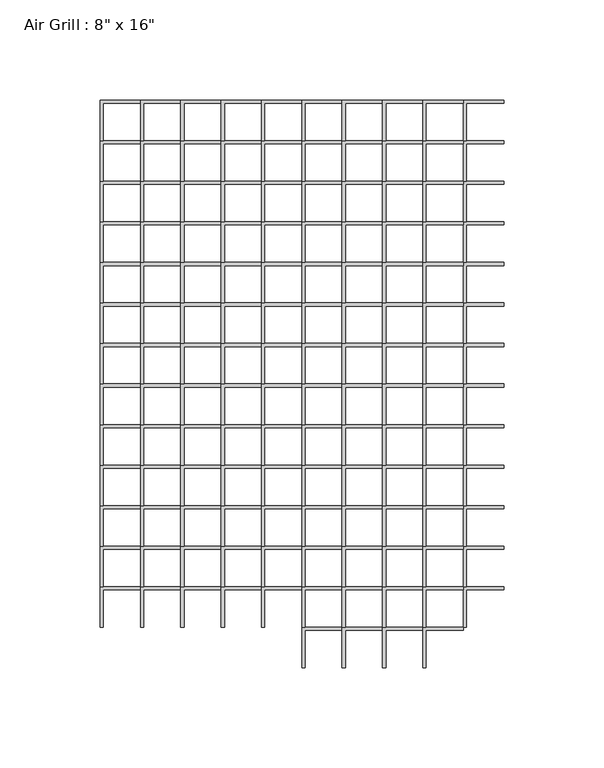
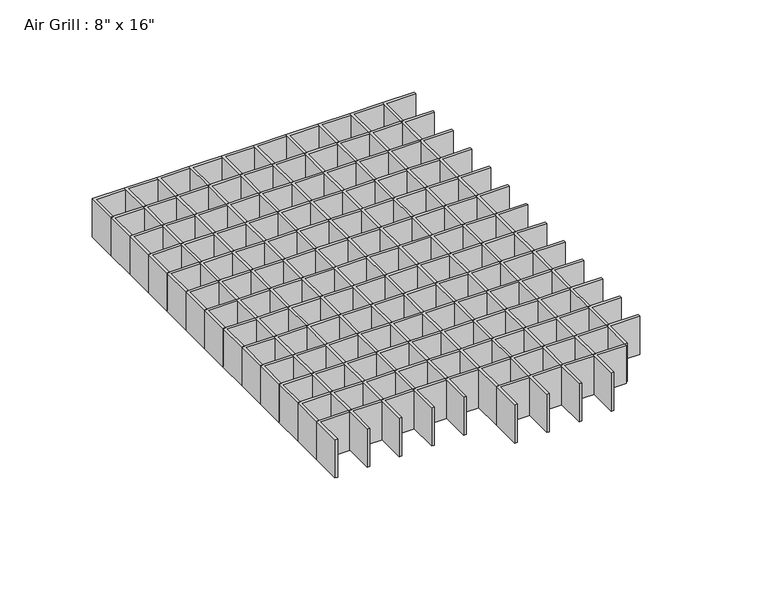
"""IFC4 building model written with IfcOpenShell, lengths in millimetres: proxy geometry."""

from ifc_helpers import new_model, si_unit, frame, origin, place, context, project, spatial, polyline, outline, extrude, source, transform, mapped, element, save


def proxy_573f99ae(model_context):
    return source(origin(), model_context, "Body", "SweptSolid", [
        extrude(outline(polyline([(59.69, 182.959375), (79.85125, 182.959375), (79.85125, 181.371875), (61.2775, 181.371875), (61.2775, 162.71875), (59.69, 162.71875), (59.69, 182.959375)])), frame((0.0, 0.0, 2438.4), z_axis=(0.0, 0.0, 1.0), x_axis=(1.0, 0.0, 0.0)), (0.0, 0.0, 1.0), 25.4),
        extrude(outline(polyline([(39.52875, 182.959375), (59.69, 182.959375), (59.69, 181.371875), (41.11625, 181.371875), (41.11625, 162.71875), (39.52875, 162.71875), (39.52875, 182.959375)])), frame((0.0, 0.0, 2438.4), z_axis=(0.0, 0.0, 1.0), x_axis=(1.0, 0.0, 0.0)), (0.0, 0.0, 1.0), 25.4),
        extrude(outline(polyline([(19.3675, 182.959375), (39.52875, 182.959375), (39.52875, 181.371875), (20.955, 181.371875), (20.955, 162.71875), (19.3675, 162.71875), (19.3675, 182.959375)])), frame((0.0, 0.0, 2438.4), z_axis=(0.0, 0.0, 1.0), x_axis=(1.0, 0.0, 0.0)), (0.0, 0.0, 1.0), 25.4),
        extrude(outline(polyline([(-0.79375, 182.959375), (19.3675, 182.959375), (19.3675, 181.371875), (0.79375, 181.371875), (0.79375, 162.71875), (-0.79375, 162.71875), (-0.79375, 182.959375)])), frame((0.0, 0.0, 2438.4), z_axis=(0.0, 0.0, 1.0), x_axis=(1.0, 0.0, 0.0)), (0.0, 0.0, 1.0), 25.4),
        extrude(outline(polyline([(-20.955, 182.959375), (-0.79375, 182.959375), (-0.79375, 181.371875), (-19.3675, 181.371875), (-19.3675, 162.71875), (-20.955, 162.71875), (-20.955, 182.959375)])), frame((0.0, 0.0, 2438.4), z_axis=(0.0, 0.0, 1.0), x_axis=(1.0, 0.0, 0.0)), (0.0, 0.0, 1.0), 25.4),
        extrude(outline(polyline([(-41.11625, 182.959375), (-20.955, 182.959375), (-20.955, 181.371875), (-39.52875, 181.371875), (-39.52875, 162.71875), (-41.11625, 162.71875), (-41.11625, 182.959375)])), frame((0.0, 0.0, 2438.4), z_axis=(0.0, 0.0, 1.0), x_axis=(1.0, 0.0, 0.0)), (0.0, 0.0, 1.0), 25.4),
        extrude(outline(polyline([(-61.2775, 182.959375), (-41.11625, 182.959375), (-41.11625, 181.371875), (-59.69, 181.371875), (-59.69, 162.71875), (-61.2775, 162.71875), (-61.2775, 182.959375)])), frame((0.0, 0.0, 2438.4), z_axis=(0.0, 0.0, 1.0), x_axis=(1.0, 0.0, 0.0)), (0.0, 0.0, 1.0), 25.4),
        extrude(outline(polyline([(-81.43875, 182.959375), (-61.2775, 182.959375), (-61.2775, 181.371875), (-79.85125, 181.371875), (-79.85125, 162.71875), (-81.43875, 162.71875), (-81.43875, 182.959375)])), frame((0.0, 0.0, 2438.4), z_axis=(0.0, 0.0, 1.0), x_axis=(1.0, 0.0, 0.0)), (0.0, 0.0, 1.0), 25.4),
        extrude(outline(polyline([(79.85125, 182.959375), (100.0125, 182.959375), (100.0125, 181.371875), (81.43875, 181.371875), (81.43875, 162.71875), (79.85125, 162.71875), (79.85125, 182.959375)])), frame((0.0, 0.0, 2438.4), z_axis=(0.0, 0.0, 1.0), x_axis=(1.0, 0.0, 0.0)), (0.0, 0.0, 1.0), 25.4),
        extrude(outline(polyline([(-101.6, 182.959375), (-81.43875, 182.959375), (-81.43875, 181.371875), (-100.0125, 181.371875), (-100.0125, 162.71875), (-101.6, 162.71875), (-101.6, 182.959375)])), frame((0.0, 0.0, 2438.4), z_axis=(0.0, 0.0, 1.0), x_axis=(1.0, 0.0, 0.0)), (0.0, 0.0, 1.0), 25.4),
        extrude(outline(polyline([(59.69, 162.71875), (79.85125, 162.71875), (79.85125, 161.13125), (61.2775, 161.13125), (61.2775, 142.478125), (59.69, 142.478125), (59.69, 162.71875)])), frame((0.0, 0.0, 2438.4), z_axis=(0.0, 0.0, 1.0), x_axis=(1.0, 0.0, 0.0)), (0.0, 0.0, 1.0), 25.4),
        extrude(outline(polyline([(39.52875, 162.71875), (59.69, 162.71875), (59.69, 161.13125), (41.11625, 161.13125), (41.11625, 142.478125), (39.52875, 142.478125), (39.52875, 162.71875)])), frame((0.0, 0.0, 2438.4), z_axis=(0.0, 0.0, 1.0), x_axis=(1.0, 0.0, 0.0)), (0.0, 0.0, 1.0), 25.4),
        extrude(outline(polyline([(19.3675, 162.71875), (39.52875, 162.71875), (39.52875, 161.13125), (20.955, 161.13125), (20.955, 142.478125), (19.3675, 142.478125), (19.3675, 162.71875)])), frame((0.0, 0.0, 2438.4), z_axis=(0.0, 0.0, 1.0), x_axis=(1.0, 0.0, 0.0)), (0.0, 0.0, 1.0), 25.4),
        extrude(outline(polyline([(-0.79375, 162.71875), (19.3675, 162.71875), (19.3675, 161.13125), (0.79375, 161.13125), (0.79375, 142.478125), (-0.79375, 142.478125), (-0.79375, 162.71875)])), frame((0.0, 0.0, 2438.4), z_axis=(0.0, 0.0, 1.0), x_axis=(1.0, 0.0, 0.0)), (0.0, 0.0, 1.0), 25.4),
        extrude(outline(polyline([(-20.955, 162.71875), (-0.79375, 162.71875), (-0.79375, 161.13125), (-19.3675, 161.13125), (-19.3675, 142.478125), (-20.955, 142.478125), (-20.955, 162.71875)])), frame((0.0, 0.0, 2438.4), z_axis=(0.0, 0.0, 1.0), x_axis=(1.0, 0.0, 0.0)), (0.0, 0.0, 1.0), 25.4),
        extrude(outline(polyline([(-41.11625, 162.71875), (-20.955, 162.71875), (-20.955, 161.13125), (-39.52875, 161.13125), (-39.52875, 142.478125), (-41.11625, 142.478125), (-41.11625, 162.71875)])), frame((0.0, 0.0, 2438.4), z_axis=(0.0, 0.0, 1.0), x_axis=(1.0, 0.0, 0.0)), (0.0, 0.0, 1.0), 25.4),
        extrude(outline(polyline([(-61.2775, 162.71875), (-41.11625, 162.71875), (-41.11625, 161.13125), (-59.69, 161.13125), (-59.69, 142.478125), (-61.2775, 142.478125), (-61.2775, 162.71875)])), frame((0.0, 0.0, 2438.4), z_axis=(0.0, 0.0, 1.0), x_axis=(1.0, 0.0, 0.0)), (0.0, 0.0, 1.0), 25.4),
        extrude(outline(polyline([(-81.43875, 162.71875), (-61.2775, 162.71875), (-61.2775, 161.13125), (-79.85125, 161.13125), (-79.85125, 142.478125), (-81.43875, 142.478125), (-81.43875, 162.71875)])), frame((0.0, 0.0, 2438.4), z_axis=(0.0, 0.0, 1.0), x_axis=(1.0, 0.0, 0.0)), (0.0, 0.0, 1.0), 25.4),
        extrude(outline(polyline([(79.85125, 162.71875), (100.0125, 162.71875), (100.0125, 161.13125), (81.43875, 161.13125), (81.43875, 142.478125), (79.85125, 142.478125), (79.85125, 162.71875)])), frame((0.0, 0.0, 2438.4), z_axis=(0.0, 0.0, 1.0), x_axis=(1.0, 0.0, 0.0)), (0.0, 0.0, 1.0), 25.4),
        extrude(outline(polyline([(-101.6, 162.71875), (-81.43875, 162.71875), (-81.43875, 161.13125), (-100.0125, 161.13125), (-100.0125, 142.478125), (-101.6, 142.478125), (-101.6, 162.71875)])), frame((0.0, 0.0, 2438.4), z_axis=(0.0, 0.0, 1.0), x_axis=(1.0, 0.0, 0.0)), (0.0, 0.0, 1.0), 25.4),
        extrude(outline(polyline([(59.69, 142.478125), (79.85125, 142.478125), (79.85125, 140.890625), (61.2775, 140.890625), (61.2775, 122.2375), (59.69, 122.2375), (59.69, 142.478125)])), frame((0.0, 0.0, 2438.4), z_axis=(0.0, 0.0, 1.0), x_axis=(1.0, 0.0, 0.0)), (0.0, 0.0, 1.0), 25.4),
        extrude(outline(polyline([(39.52875, 142.478125), (59.69, 142.478125), (59.69, 140.890625), (41.11625, 140.890625), (41.11625, 122.2375), (39.52875, 122.2375), (39.52875, 142.478125)])), frame((0.0, 0.0, 2438.4), z_axis=(0.0, 0.0, 1.0), x_axis=(1.0, 0.0, 0.0)), (0.0, 0.0, 1.0), 25.4),
        extrude(outline(polyline([(19.3675, 142.478125), (39.52875, 142.478125), (39.52875, 140.890625), (20.955, 140.890625), (20.955, 122.2375), (19.3675, 122.2375), (19.3675, 142.478125)])), frame((0.0, 0.0, 2438.4), z_axis=(0.0, 0.0, 1.0), x_axis=(1.0, 0.0, 0.0)), (0.0, 0.0, 1.0), 25.4),
        extrude(outline(polyline([(-0.79375, 142.478125), (19.3675, 142.478125), (19.3675, 140.890625), (0.79375, 140.890625), (0.79375, 122.2375), (-0.79375, 122.2375), (-0.79375, 142.478125)])), frame((0.0, 0.0, 2438.4), z_axis=(0.0, 0.0, 1.0), x_axis=(1.0, 0.0, 0.0)), (0.0, 0.0, 1.0), 25.4),
        extrude(outline(polyline([(-20.955, 142.478125), (-0.79375, 142.478125), (-0.79375, 140.890625), (-19.3675, 140.890625), (-19.3675, 122.2375), (-20.955, 122.2375), (-20.955, 142.478125)])), frame((0.0, 0.0, 2438.4), z_axis=(0.0, 0.0, 1.0), x_axis=(1.0, 0.0, 0.0)), (0.0, 0.0, 1.0), 25.4),
        extrude(outline(polyline([(-41.11625, 142.478125), (-20.955, 142.478125), (-20.955, 140.890625), (-39.52875, 140.890625), (-39.52875, 122.2375), (-41.11625, 122.2375), (-41.11625, 142.478125)])), frame((0.0, 0.0, 2438.4), z_axis=(0.0, 0.0, 1.0), x_axis=(1.0, 0.0, 0.0)), (0.0, 0.0, 1.0), 25.4),
        extrude(outline(polyline([(-61.2775, 142.478125), (-41.11625, 142.478125), (-41.11625, 140.890625), (-59.69, 140.890625), (-59.69, 122.2375), (-61.2775, 122.2375), (-61.2775, 142.478125)])), frame((0.0, 0.0, 2438.4), z_axis=(0.0, 0.0, 1.0), x_axis=(1.0, 0.0, 0.0)), (0.0, 0.0, 1.0), 25.4),
        extrude(outline(polyline([(-81.43875, 142.478125), (-61.2775, 142.478125), (-61.2775, 140.890625), (-79.85125, 140.890625), (-79.85125, 122.2375), (-81.43875, 122.2375), (-81.43875, 142.478125)])), frame((0.0, 0.0, 2438.4), z_axis=(0.0, 0.0, 1.0), x_axis=(1.0, 0.0, 0.0)), (0.0, 0.0, 1.0), 25.4),
        extrude(outline(polyline([(79.85125, 142.478125), (100.0125, 142.478125), (100.0125, 140.890625), (81.43875, 140.890625), (81.43875, 122.2375), (79.85125, 122.2375), (79.85125, 142.478125)])), frame((0.0, 0.0, 2438.4), z_axis=(0.0, 0.0, 1.0), x_axis=(1.0, 0.0, 0.0)), (0.0, 0.0, 1.0), 25.4),
        extrude(outline(polyline([(-101.6, 142.478125), (-81.43875, 142.478125), (-81.43875, 140.890625), (-100.0125, 140.890625), (-100.0125, 122.2375), (-101.6, 122.2375), (-101.6, 142.478125)])), frame((0.0, 0.0, 2438.4), z_axis=(0.0, 0.0, 1.0), x_axis=(1.0, 0.0, 0.0)), (0.0, 0.0, 1.0), 25.4),
        extrude(outline(polyline([(59.69, 122.2375), (79.85125, 122.2375), (79.85125, 120.65), (61.2775, 120.65), (61.2775, 101.996875), (59.69, 101.996875), (59.69, 122.2375)])), frame((0.0, 0.0, 2438.4), z_axis=(0.0, 0.0, 1.0), x_axis=(1.0, 0.0, 0.0)), (0.0, 0.0, 1.0), 25.4),
        extrude(outline(polyline([(39.52875, 122.2375), (59.69, 122.2375), (59.69, 120.65), (41.11625, 120.65), (41.11625, 101.996875), (39.52875, 101.996875), (39.52875, 122.2375)])), frame((0.0, 0.0, 2438.4), z_axis=(0.0, 0.0, 1.0), x_axis=(1.0, 0.0, 0.0)), (0.0, 0.0, 1.0), 25.4),
        extrude(outline(polyline([(19.3675, 122.2375), (39.52875, 122.2375), (39.52875, 120.65), (20.955, 120.65), (20.955, 101.996875), (19.3675, 101.996875), (19.3675, 122.2375)])), frame((0.0, 0.0, 2438.4), z_axis=(0.0, 0.0, 1.0), x_axis=(1.0, 0.0, 0.0)), (0.0, 0.0, 1.0), 25.4),
        extrude(outline(polyline([(-0.79375, 122.2375), (19.3675, 122.2375), (19.3675, 120.65), (0.79375, 120.65), (0.79375, 101.996875), (-0.79375, 101.996875), (-0.79375, 122.2375)])), frame((0.0, 0.0, 2438.4), z_axis=(0.0, 0.0, 1.0), x_axis=(1.0, 0.0, 0.0)), (0.0, 0.0, 1.0), 25.4),
        extrude(outline(polyline([(-20.955, 122.2375), (-0.79375, 122.2375), (-0.79375, 120.65), (-19.3675, 120.65), (-19.3675, 101.996875), (-20.955, 101.996875), (-20.955, 122.2375)])), frame((0.0, 0.0, 2438.4), z_axis=(0.0, 0.0, 1.0), x_axis=(1.0, 0.0, 0.0)), (0.0, 0.0, 1.0), 25.4),
        extrude(outline(polyline([(-41.11625, 122.2375), (-20.955, 122.2375), (-20.955, 120.65), (-39.52875, 120.65), (-39.52875, 101.996875), (-41.11625, 101.996875), (-41.11625, 122.2375)])), frame((0.0, 0.0, 2438.4), z_axis=(0.0, 0.0, 1.0), x_axis=(1.0, 0.0, 0.0)), (0.0, 0.0, 1.0), 25.4),
        extrude(outline(polyline([(-61.2775, 122.2375), (-41.11625, 122.2375), (-41.11625, 120.65), (-59.69, 120.65), (-59.69, 101.996875), (-61.2775, 101.996875), (-61.2775, 122.2375)])), frame((0.0, 0.0, 2438.4), z_axis=(0.0, 0.0, 1.0), x_axis=(1.0, 0.0, 0.0)), (0.0, 0.0, 1.0), 25.4),
        extrude(outline(polyline([(-81.43875, 122.2375), (-61.2775, 122.2375), (-61.2775, 120.65), (-79.85125, 120.65), (-79.85125, 101.996875), (-81.43875, 101.996875), (-81.43875, 122.2375)])), frame((0.0, 0.0, 2438.4), z_axis=(0.0, 0.0, 1.0), x_axis=(1.0, 0.0, 0.0)), (0.0, 0.0, 1.0), 25.4),
        extrude(outline(polyline([(79.85125, 122.2375), (100.0125, 122.2375), (100.0125, 120.65), (81.43875, 120.65), (81.43875, 101.996875), (79.85125, 101.996875), (79.85125, 122.2375)])), frame((0.0, 0.0, 2438.4), z_axis=(0.0, 0.0, 1.0), x_axis=(1.0, 0.0, 0.0)), (0.0, 0.0, 1.0), 25.4),
        extrude(outline(polyline([(-101.6, 122.2375), (-81.43875, 122.2375), (-81.43875, 120.65), (-100.0125, 120.65), (-100.0125, 101.996875), (-101.6, 101.996875), (-101.6, 122.2375)])), frame((0.0, 0.0, 2438.4), z_axis=(0.0, 0.0, 1.0), x_axis=(1.0, 0.0, 0.0)), (0.0, 0.0, 1.0), 25.4),
        extrude(outline(polyline([(59.69, 101.996875), (79.85125, 101.996875), (79.85125, 100.409375), (61.2775, 100.409375), (61.2775, 81.75625), (59.69, 81.75625), (59.69, 101.996875)])), frame((0.0, 0.0, 2438.4), z_axis=(0.0, 0.0, 1.0), x_axis=(1.0, 0.0, 0.0)), (0.0, 0.0, 1.0), 25.4),
        extrude(outline(polyline([(39.52875, 101.996875), (59.69, 101.996875), (59.69, 100.409375), (41.11625, 100.409375), (41.11625, 81.75625), (39.52875, 81.75625), (39.52875, 101.996875)])), frame((0.0, 0.0, 2438.4), z_axis=(0.0, 0.0, 1.0), x_axis=(1.0, 0.0, 0.0)), (0.0, 0.0, 1.0), 25.4),
        extrude(outline(polyline([(19.3675, 101.996875), (39.52875, 101.996875), (39.52875, 100.409375), (20.955, 100.409375), (20.955, 81.75625), (19.3675, 81.75625), (19.3675, 101.996875)])), frame((0.0, 0.0, 2438.4), z_axis=(0.0, 0.0, 1.0), x_axis=(1.0, 0.0, 0.0)), (0.0, 0.0, 1.0), 25.4),
        extrude(outline(polyline([(-0.79375, 101.996875), (19.3675, 101.996875), (19.3675, 100.409375), (0.79375, 100.409375), (0.79375, 81.75625), (-0.79375, 81.75625), (-0.79375, 101.996875)])), frame((0.0, 0.0, 2438.4), z_axis=(0.0, 0.0, 1.0), x_axis=(1.0, 0.0, 0.0)), (0.0, 0.0, 1.0), 25.4),
        extrude(outline(polyline([(-20.955, 101.996875), (-0.79375, 101.996875), (-0.79375, 100.409375), (-19.3675, 100.409375), (-19.3675, 81.75625), (-20.955, 81.75625), (-20.955, 101.996875)])), frame((0.0, 0.0, 2438.4), z_axis=(0.0, 0.0, 1.0), x_axis=(1.0, 0.0, 0.0)), (0.0, 0.0, 1.0), 25.4),
        extrude(outline(polyline([(-41.11625, 101.996875), (-20.955, 101.996875), (-20.955, 100.409375), (-39.52875, 100.409375), (-39.52875, 81.75625), (-41.11625, 81.75625), (-41.11625, 101.996875)])), frame((0.0, 0.0, 2438.4), z_axis=(0.0, 0.0, 1.0), x_axis=(1.0, 0.0, 0.0)), (0.0, 0.0, 1.0), 25.4),
        extrude(outline(polyline([(-61.2775, 101.996875), (-41.11625, 101.996875), (-41.11625, 100.409375), (-59.69, 100.409375), (-59.69, 81.75625), (-61.2775, 81.75625), (-61.2775, 101.996875)])), frame((0.0, 0.0, 2438.4), z_axis=(0.0, 0.0, 1.0), x_axis=(1.0, 0.0, 0.0)), (0.0, 0.0, 1.0), 25.4),
        extrude(outline(polyline([(-81.43875, 101.996875), (-61.2775, 101.996875), (-61.2775, 100.409375), (-79.85125, 100.409375), (-79.85125, 81.75625), (-81.43875, 81.75625), (-81.43875, 101.996875)])), frame((0.0, 0.0, 2438.4), z_axis=(0.0, 0.0, 1.0), x_axis=(1.0, 0.0, 0.0)), (0.0, 0.0, 1.0), 25.4),
        extrude(outline(polyline([(79.85125, 101.996875), (100.0125, 101.996875), (100.0125, 100.409375), (81.43875, 100.409375), (81.43875, 81.75625), (79.85125, 81.75625), (79.85125, 101.996875)])), frame((0.0, 0.0, 2438.4), z_axis=(0.0, 0.0, 1.0), x_axis=(1.0, 0.0, 0.0)), (0.0, 0.0, 1.0), 25.4),
        extrude(outline(polyline([(-101.6, 101.996875), (-81.43875, 101.996875), (-81.43875, 100.409375), (-100.0125, 100.409375), (-100.0125, 81.75625), (-101.6, 81.75625), (-101.6, 101.996875)])), frame((0.0, 0.0, 2438.4), z_axis=(0.0, 0.0, 1.0), x_axis=(1.0, 0.0, 0.0)), (0.0, 0.0, 1.0), 25.4),
        extrude(outline(polyline([(59.69, 81.75625), (79.85125, 81.75625), (79.85125, 80.16875), (61.2775, 80.16875), (61.2775, 61.515625), (59.69, 61.515625), (59.69, 81.75625)])), frame((0.0, 0.0, 2438.4), z_axis=(0.0, 0.0, 1.0), x_axis=(1.0, 0.0, 0.0)), (0.0, 0.0, 1.0), 25.4),
        extrude(outline(polyline([(39.52875, 81.75625), (59.69, 81.75625), (59.69, 80.16875), (41.11625, 80.16875), (41.11625, 61.515625), (39.52875, 61.515625), (39.52875, 81.75625)])), frame((0.0, 0.0, 2438.4), z_axis=(0.0, 0.0, 1.0), x_axis=(1.0, 0.0, 0.0)), (0.0, 0.0, 1.0), 25.4),
        extrude(outline(polyline([(19.3675, 81.75625), (39.52875, 81.75625), (39.52875, 80.16875), (20.955, 80.16875), (20.955, 61.515625), (19.3675, 61.515625), (19.3675, 81.75625)])), frame((0.0, 0.0, 2438.4), z_axis=(0.0, 0.0, 1.0), x_axis=(1.0, 0.0, 0.0)), (0.0, 0.0, 1.0), 25.4),
        extrude(outline(polyline([(-0.79375, 81.75625), (19.3675, 81.75625), (19.3675, 80.16875), (0.79375, 80.16875), (0.79375, 61.515625), (-0.79375, 61.515625), (-0.79375, 81.75625)])), frame((0.0, 0.0, 2438.4), z_axis=(0.0, 0.0, 1.0), x_axis=(1.0, 0.0, 0.0)), (0.0, 0.0, 1.0), 25.4),
        extrude(outline(polyline([(-20.955, 81.75625), (-0.79375, 81.75625), (-0.79375, 80.16875), (-19.3675, 80.16875), (-19.3675, 61.515625), (-20.955, 61.515625), (-20.955, 81.75625)])), frame((0.0, 0.0, 2438.4), z_axis=(0.0, 0.0, 1.0), x_axis=(1.0, 0.0, 0.0)), (0.0, 0.0, 1.0), 25.4),
        extrude(outline(polyline([(-41.11625, 81.75625), (-20.955, 81.75625), (-20.955, 80.16875), (-39.52875, 80.16875), (-39.52875, 61.515625), (-41.11625, 61.515625), (-41.11625, 81.75625)])), frame((0.0, 0.0, 2438.4), z_axis=(0.0, 0.0, 1.0), x_axis=(1.0, 0.0, 0.0)), (0.0, 0.0, 1.0), 25.4),
        extrude(outline(polyline([(-61.2775, 81.75625), (-41.11625, 81.75625), (-41.11625, 80.16875), (-59.69, 80.16875), (-59.69, 61.515625), (-61.2775, 61.515625), (-61.2775, 81.75625)])), frame((0.0, 0.0, 2438.4), z_axis=(0.0, 0.0, 1.0), x_axis=(1.0, 0.0, 0.0)), (0.0, 0.0, 1.0), 25.4),
        extrude(outline(polyline([(-81.43875, 81.75625), (-61.2775, 81.75625), (-61.2775, 80.16875), (-79.85125, 80.16875), (-79.85125, 61.515625), (-81.43875, 61.515625), (-81.43875, 81.75625)])), frame((0.0, 0.0, 2438.4), z_axis=(0.0, 0.0, 1.0), x_axis=(1.0, 0.0, 0.0)), (0.0, 0.0, 1.0), 25.4),
        extrude(outline(polyline([(79.85125, 81.75625), (100.0125, 81.75625), (100.0125, 80.16875), (81.43875, 80.16875), (81.43875, 61.515625), (79.85125, 61.515625), (79.85125, 81.75625)])), frame((0.0, 0.0, 2438.4), z_axis=(0.0, 0.0, 1.0), x_axis=(1.0, 0.0, 0.0)), (0.0, 0.0, 1.0), 25.4),
        extrude(outline(polyline([(-101.6, 81.75625), (-81.43875, 81.75625), (-81.43875, 80.16875), (-100.0125, 80.16875), (-100.0125, 61.515625), (-101.6, 61.515625), (-101.6, 81.75625)])), frame((0.0, 0.0, 2438.4), z_axis=(0.0, 0.0, 1.0), x_axis=(1.0, 0.0, 0.0)), (0.0, 0.0, 1.0), 25.4),
        extrude(outline(polyline([(59.69, 61.515625), (79.85125, 61.515625), (79.85125, 59.928125), (61.2775, 59.928125), (61.2775, 41.275), (59.69, 41.275), (59.69, 61.515625)])), frame((0.0, 0.0, 2438.4), z_axis=(0.0, 0.0, 1.0), x_axis=(1.0, 0.0, 0.0)), (0.0, 0.0, 1.0), 25.4),
        extrude(outline(polyline([(39.52875, 61.515625), (59.69, 61.515625), (59.69, 59.928125), (41.11625, 59.928125), (41.11625, 41.275), (39.52875, 41.275), (39.52875, 61.515625)])), frame((0.0, 0.0, 2438.4), z_axis=(0.0, 0.0, 1.0), x_axis=(1.0, 0.0, 0.0)), (0.0, 0.0, 1.0), 25.4),
        extrude(outline(polyline([(19.3675, 61.515625), (39.52875, 61.515625), (39.52875, 59.928125), (20.955, 59.928125), (20.955, 41.275), (19.3675, 41.275), (19.3675, 61.515625)])), frame((0.0, 0.0, 2438.4), z_axis=(0.0, 0.0, 1.0), x_axis=(1.0, 0.0, 0.0)), (0.0, 0.0, 1.0), 25.4),
        extrude(outline(polyline([(-0.79375, 61.515625), (19.3675, 61.515625), (19.3675, 59.928125), (0.79375, 59.928125), (0.79375, 41.275), (-0.79375, 41.275), (-0.79375, 61.515625)])), frame((0.0, 0.0, 2438.4), z_axis=(0.0, 0.0, 1.0), x_axis=(1.0, 0.0, 0.0)), (0.0, 0.0, 1.0), 25.4),
        extrude(outline(polyline([(-20.955, 61.515625), (-0.79375, 61.515625), (-0.79375, 59.928125), (-19.3675, 59.928125), (-19.3675, 41.275), (-20.955, 41.275), (-20.955, 61.515625)])), frame((0.0, 0.0, 2438.4), z_axis=(0.0, 0.0, 1.0), x_axis=(1.0, 0.0, 0.0)), (0.0, 0.0, 1.0), 25.4),
        extrude(outline(polyline([(-41.11625, 61.515625), (-20.955, 61.515625), (-20.955, 59.928125), (-39.52875, 59.928125), (-39.52875, 41.275), (-41.11625, 41.275), (-41.11625, 61.515625)])), frame((0.0, 0.0, 2438.4), z_axis=(0.0, 0.0, 1.0), x_axis=(1.0, 0.0, 0.0)), (0.0, 0.0, 1.0), 25.4),
        extrude(outline(polyline([(-61.2775, 61.515625), (-41.11625, 61.515625), (-41.11625, 59.928125), (-59.69, 59.928125), (-59.69, 41.275), (-61.2775, 41.275), (-61.2775, 61.515625)])), frame((0.0, 0.0, 2438.4), z_axis=(0.0, 0.0, 1.0), x_axis=(1.0, 0.0, 0.0)), (0.0, 0.0, 1.0), 25.4),
        extrude(outline(polyline([(-81.43875, 61.515625), (-61.2775, 61.515625), (-61.2775, 59.928125), (-79.85125, 59.928125), (-79.85125, 41.275), (-81.43875, 41.275), (-81.43875, 61.515625)])), frame((0.0, 0.0, 2438.4), z_axis=(0.0, 0.0, 1.0), x_axis=(1.0, 0.0, 0.0)), (0.0, 0.0, 1.0), 25.4),
        extrude(outline(polyline([(79.85125, 61.515625), (100.0125, 61.515625), (100.0125, 59.928125), (81.43875, 59.928125), (81.43875, 41.275), (79.85125, 41.275), (79.85125, 61.515625)])), frame((0.0, 0.0, 2438.4), z_axis=(0.0, 0.0, 1.0), x_axis=(1.0, 0.0, 0.0)), (0.0, 0.0, 1.0), 25.4),
        extrude(outline(polyline([(-101.6, 61.515625), (-81.43875, 61.515625), (-81.43875, 59.928125), (-100.0125, 59.928125), (-100.0125, 41.275), (-101.6, 41.275), (-101.6, 61.515625)])), frame((0.0, 0.0, 2438.4), z_axis=(0.0, 0.0, 1.0), x_axis=(1.0, 0.0, 0.0)), (0.0, 0.0, 1.0), 25.4),
        extrude(outline(polyline([(59.69, 41.275), (79.85125, 41.275), (79.85125, 39.6875), (61.2775, 39.6875), (61.2775, 21.034375), (59.69, 21.034375), (59.69, 41.275)])), frame((0.0, 0.0, 2438.4), z_axis=(0.0, 0.0, 1.0), x_axis=(1.0, 0.0, 0.0)), (0.0, 0.0, 1.0), 25.4),
        extrude(outline(polyline([(39.52875, 41.275), (59.69, 41.275), (59.69, 39.6875), (41.11625, 39.6875), (41.11625, 21.034375), (39.52875, 21.034375), (39.52875, 41.275)])), frame((0.0, 0.0, 2438.4), z_axis=(0.0, 0.0, 1.0), x_axis=(1.0, 0.0, 0.0)), (0.0, 0.0, 1.0), 25.4),
        extrude(outline(polyline([(19.3675, 41.275), (39.52875, 41.275), (39.52875, 39.6875), (20.955, 39.6875), (20.955, 21.034375), (19.3675, 21.034375), (19.3675, 41.275)])), frame((0.0, 0.0, 2438.4), z_axis=(0.0, 0.0, 1.0), x_axis=(1.0, 0.0, 0.0)), (0.0, 0.0, 1.0), 25.4),
        extrude(outline(polyline([(-0.79375, 41.275), (19.3675, 41.275), (19.3675, 39.6875), (0.79375, 39.6875), (0.79375, 21.034375), (-0.79375, 21.034375), (-0.79375, 41.275)])), frame((0.0, 0.0, 2438.4), z_axis=(0.0, 0.0, 1.0), x_axis=(1.0, 0.0, 0.0)), (0.0, 0.0, 1.0), 25.4),
        extrude(outline(polyline([(-20.955, 41.275), (-0.79375, 41.275), (-0.79375, 39.6875), (-19.3675, 39.6875), (-19.3675, 21.034375), (-20.955, 21.034375), (-20.955, 41.275)])), frame((0.0, 0.0, 2438.4), z_axis=(0.0, 0.0, 1.0), x_axis=(1.0, 0.0, 0.0)), (0.0, 0.0, 1.0), 25.4),
        extrude(outline(polyline([(-41.11625, 41.275), (-20.955, 41.275), (-20.955, 39.6875), (-39.52875, 39.6875), (-39.52875, 21.034375), (-41.11625, 21.034375), (-41.11625, 41.275)])), frame((0.0, 0.0, 2438.4), z_axis=(0.0, 0.0, 1.0), x_axis=(1.0, 0.0, 0.0)), (0.0, 0.0, 1.0), 25.4),
        extrude(outline(polyline([(-61.2775, 41.275), (-41.11625, 41.275), (-41.11625, 39.6875), (-59.69, 39.6875), (-59.69, 21.034375), (-61.2775, 21.034375), (-61.2775, 41.275)])), frame((0.0, 0.0, 2438.4), z_axis=(0.0, 0.0, 1.0), x_axis=(1.0, 0.0, 0.0)), (0.0, 0.0, 1.0), 25.4),
        extrude(outline(polyline([(-81.43875, 41.275), (-61.2775, 41.275), (-61.2775, 39.6875), (-79.85125, 39.6875), (-79.85125, 21.034375), (-81.43875, 21.034375), (-81.43875, 41.275)])), frame((0.0, 0.0, 2438.4), z_axis=(0.0, 0.0, 1.0), x_axis=(1.0, 0.0, 0.0)), (0.0, 0.0, 1.0), 25.4),
        extrude(outline(polyline([(79.85125, 41.275), (100.0125, 41.275), (100.0125, 39.6875), (81.43875, 39.6875), (81.43875, 21.034375), (79.85125, 21.034375), (79.85125, 41.275)])), frame((0.0, 0.0, 2438.4), z_axis=(0.0, 0.0, 1.0), x_axis=(1.0, 0.0, 0.0)), (0.0, 0.0, 1.0), 25.4),
        extrude(outline(polyline([(-101.6, 41.275), (-81.43875, 41.275), (-81.43875, 39.6875), (-100.0125, 39.6875), (-100.0125, 21.034375), (-101.6, 21.034375), (-101.6, 41.275)])), frame((0.0, 0.0, 2438.4), z_axis=(0.0, 0.0, 1.0), x_axis=(1.0, 0.0, 0.0)), (0.0, 0.0, 1.0), 25.4),
        extrude(outline(polyline([(59.69, 21.034375), (79.85125, 21.034375), (79.85125, 19.446875), (61.2775, 19.446875), (61.2775, 0.79375), (59.69, 0.79375), (59.69, 21.034375)])), frame((0.0, 0.0, 2438.4), z_axis=(0.0, 0.0, 1.0), x_axis=(1.0, 0.0, 0.0)), (0.0, 0.0, 1.0), 25.4),
        extrude(outline(polyline([(39.52875, 21.034375), (59.69, 21.034375), (59.69, 19.446875), (41.11625, 19.446875), (41.11625, 0.79375), (39.52875, 0.79375), (39.52875, 21.034375)])), frame((0.0, 0.0, 2438.4), z_axis=(0.0, 0.0, 1.0), x_axis=(1.0, 0.0, 0.0)), (0.0, 0.0, 1.0), 25.4),
        extrude(outline(polyline([(19.3675, 21.034375), (39.52875, 21.034375), (39.52875, 19.446875), (20.955, 19.446875), (20.955, 0.79375), (19.3675, 0.79375), (19.3675, 21.034375)])), frame((0.0, 0.0, 2438.4), z_axis=(0.0, 0.0, 1.0), x_axis=(1.0, 0.0, 0.0)), (0.0, 0.0, 1.0), 25.4),
        extrude(outline(polyline([(-0.79375, 21.034375), (19.3675, 21.034375), (19.3675, 19.446875), (0.79375, 19.446875), (0.79375, 0.79375), (-0.79375, 0.79375), (-0.79375, 21.034375)])), frame((0.0, 0.0, 2438.4), z_axis=(0.0, 0.0, 1.0), x_axis=(1.0, 0.0, 0.0)), (0.0, 0.0, 1.0), 25.4),
        extrude(outline(polyline([(-20.955, 21.034375), (-0.79375, 21.034375), (-0.79375, 19.446875), (-19.3675, 19.446875), (-19.3675, 0.79375), (-20.955, 0.79375), (-20.955, 21.034375)])), frame((0.0, 0.0, 2438.4), z_axis=(0.0, 0.0, 1.0), x_axis=(1.0, 0.0, 0.0)), (0.0, 0.0, 1.0), 25.4),
        extrude(outline(polyline([(-41.11625, 21.034375), (-20.955, 21.034375), (-20.955, 19.446875), (-39.52875, 19.446875), (-39.52875, 0.79375), (-41.11625, 0.79375), (-41.11625, 21.034375)])), frame((0.0, 0.0, 2438.4), z_axis=(0.0, 0.0, 1.0), x_axis=(1.0, 0.0, 0.0)), (0.0, 0.0, 1.0), 25.4),
        extrude(outline(polyline([(-61.2775, 21.034375), (-41.11625, 21.034375), (-41.11625, 19.446875), (-59.69, 19.446875), (-59.69, 0.79375), (-61.2775, 0.79375), (-61.2775, 21.034375)])), frame((0.0, 0.0, 2438.4), z_axis=(0.0, 0.0, 1.0), x_axis=(1.0, 0.0, 0.0)), (0.0, 0.0, 1.0), 25.4),
        extrude(outline(polyline([(-81.43875, 21.034375), (-61.2775, 21.034375), (-61.2775, 19.446875), (-79.85125, 19.446875), (-79.85125, 0.79375), (-81.43875, 0.79375), (-81.43875, 21.034375)])), frame((0.0, 0.0, 2438.4), z_axis=(0.0, 0.0, 1.0), x_axis=(1.0, 0.0, 0.0)), (0.0, 0.0, 1.0), 25.4),
        extrude(outline(polyline([(79.85125, 21.034375), (100.0125, 21.034375), (100.0125, 19.446875), (81.43875, 19.446875), (81.43875, 0.79375), (79.85125, 0.79375), (79.85125, 21.034375)])), frame((0.0, 0.0, 2438.4), z_axis=(0.0, 0.0, 1.0), x_axis=(1.0, 0.0, 0.0)), (0.0, 0.0, 1.0), 25.4),
        extrude(outline(polyline([(-101.6, 21.034375), (-81.43875, 21.034375), (-81.43875, 19.446875), (-100.0125, 19.446875), (-100.0125, 0.79375), (-101.6, 0.79375), (-101.6, 21.034375)])), frame((0.0, 0.0, 2438.4), z_axis=(0.0, 0.0, 1.0), x_axis=(1.0, 0.0, 0.0)), (0.0, 0.0, 1.0), 25.4),
        extrude(outline(polyline([(59.69, 0.79375), (79.85125, 0.79375), (79.85125, -0.79375), (61.2775, -0.79375), (61.2775, -19.446875), (59.69, -19.446875), (59.69, 0.79375)])), frame((0.0, 0.0, 2438.4), z_axis=(0.0, 0.0, 1.0), x_axis=(1.0, 0.0, 0.0)), (0.0, 0.0, 1.0), 25.4),
        extrude(outline(polyline([(39.52875, 0.79375), (59.69, 0.79375), (59.69, -0.79375), (41.11625, -0.79375), (41.11625, -19.446875), (39.52875, -19.446875), (39.52875, 0.79375)])), frame((0.0, 0.0, 2438.4), z_axis=(0.0, 0.0, 1.0), x_axis=(1.0, 0.0, 0.0)), (0.0, 0.0, 1.0), 25.4),
        extrude(outline(polyline([(19.3675, 0.79375), (39.52875, 0.79375), (39.52875, -0.79375), (20.955, -0.79375), (20.955, -19.446875), (19.3675, -19.446875), (19.3675, 0.79375)])), frame((0.0, 0.0, 2438.4), z_axis=(0.0, 0.0, 1.0), x_axis=(1.0, 0.0, 0.0)), (0.0, 0.0, 1.0), 25.4),
        extrude(outline(polyline([(-0.79375, 0.79375), (19.3675, 0.79375), (19.3675, -0.79375), (0.79375, -0.79375), (0.79375, -19.446875), (-0.79375, -19.446875), (-0.79375, 0.79375)])), frame((0.0, 0.0, 2438.4), z_axis=(0.0, 0.0, 1.0), x_axis=(1.0, 0.0, 0.0)), (0.0, 0.0, 1.0), 25.4),
        extrude(outline(polyline([(-20.955, 0.79375), (-0.79375, 0.79375), (-0.79375, -0.79375), (-19.3675, -0.79375), (-19.3675, -19.446875), (-20.955, -19.446875), (-20.955, 0.79375)])), frame((0.0, 0.0, 2438.4), z_axis=(0.0, 0.0, 1.0), x_axis=(1.0, 0.0, 0.0)), (0.0, 0.0, 1.0), 25.4),
        extrude(outline(polyline([(-41.11625, 0.79375), (-20.955, 0.79375), (-20.955, -0.79375), (-39.52875, -0.79375), (-39.52875, -19.446875), (-41.11625, -19.446875), (-41.11625, 0.79375)])), frame((0.0, 0.0, 2438.4), z_axis=(0.0, 0.0, 1.0), x_axis=(1.0, 0.0, 0.0)), (0.0, 0.0, 1.0), 25.4),
        extrude(outline(polyline([(-61.2775, 0.79375), (-41.11625, 0.79375), (-41.11625, -0.79375), (-59.69, -0.79375), (-59.69, -19.446875), (-61.2775, -19.446875), (-61.2775, 0.79375)])), frame((0.0, 0.0, 2438.4), z_axis=(0.0, 0.0, 1.0), x_axis=(1.0, 0.0, 0.0)), (0.0, 0.0, 1.0), 25.4),
        extrude(outline(polyline([(-81.43875, 0.79375), (-61.2775, 0.79375), (-61.2775, -0.79375), (-79.85125, -0.79375), (-79.85125, -19.446875), (-81.43875, -19.446875), (-81.43875, 0.79375)])), frame((0.0, 0.0, 2438.4), z_axis=(0.0, 0.0, 1.0), x_axis=(1.0, 0.0, 0.0)), (0.0, 0.0, 1.0), 25.4),
        extrude(outline(polyline([(79.85125, 0.79375), (100.0125, 0.79375), (100.0125, -0.79375), (81.43875, -0.79375), (81.43875, -19.446875), (79.85125, -19.446875), (79.85125, 0.79375)])), frame((0.0, 0.0, 2438.4), z_axis=(0.0, 0.0, 1.0), x_axis=(1.0, 0.0, 0.0)), (0.0, 0.0, 1.0), 25.4),
        extrude(outline(polyline([(-101.6, 0.79375), (-81.43875, 0.79375), (-81.43875, -0.79375), (-100.0125, -0.79375), (-100.0125, -19.446875), (-101.6, -19.446875), (-101.6, 0.79375)])), frame((0.0, 0.0, 2438.4), z_axis=(0.0, 0.0, 1.0), x_axis=(1.0, 0.0, 0.0)), (0.0, 0.0, 1.0), 25.4),
        extrude(outline(polyline([(59.69, -19.446875), (79.85125, -19.446875), (79.85125, -21.034375), (61.2775, -21.034375), (61.2775, -39.6875), (59.69, -39.6875), (59.69, -19.446875)])), frame((0.0, 0.0, 2438.4), z_axis=(0.0, 0.0, 1.0), x_axis=(1.0, 0.0, 0.0)), (0.0, 0.0, 1.0), 25.4),
        extrude(outline(polyline([(39.52875, -19.446875), (59.69, -19.446875), (59.69, -21.034375), (41.11625, -21.034375), (41.11625, -39.6875), (39.52875, -39.6875), (39.52875, -19.446875)])), frame((0.0, 0.0, 2438.4), z_axis=(0.0, 0.0, 1.0), x_axis=(1.0, 0.0, 0.0)), (0.0, 0.0, 1.0), 25.4),
        extrude(outline(polyline([(19.3675, -19.446875), (39.52875, -19.446875), (39.52875, -21.034375), (20.955, -21.034375), (20.955, -39.6875), (19.3675, -39.6875), (19.3675, -19.446875)])), frame((0.0, 0.0, 2438.4), z_axis=(0.0, 0.0, 1.0), x_axis=(1.0, 0.0, 0.0)), (0.0, 0.0, 1.0), 25.4),
        extrude(outline(polyline([(-0.79375, -19.446875), (19.3675, -19.446875), (19.3675, -21.034375), (0.79375, -21.034375), (0.79375, -39.6875), (-0.79375, -39.6875), (-0.79375, -19.446875)])), frame((0.0, 0.0, 2438.4), z_axis=(0.0, 0.0, 1.0), x_axis=(1.0, 0.0, 0.0)), (0.0, 0.0, 1.0), 25.4),
        extrude(outline(polyline([(-20.955, -19.446875), (-0.79375, -19.446875), (-0.79375, -21.034375), (-19.3675, -21.034375), (-19.3675, -39.6875), (-20.955, -39.6875), (-20.955, -19.446875)])), frame((0.0, 0.0, 2438.4), z_axis=(0.0, 0.0, 1.0), x_axis=(1.0, 0.0, 0.0)), (0.0, 0.0, 1.0), 25.4),
        extrude(outline(polyline([(-41.11625, -19.446875), (-20.955, -19.446875), (-20.955, -21.034375), (-39.52875, -21.034375), (-39.52875, -39.6875), (-41.11625, -39.6875), (-41.11625, -19.446875)])), frame((0.0, 0.0, 2438.4), z_axis=(0.0, 0.0, 1.0), x_axis=(1.0, 0.0, 0.0)), (0.0, 0.0, 1.0), 25.4),
        extrude(outline(polyline([(-61.2775, -19.446875), (-41.11625, -19.446875), (-41.11625, -21.034375), (-59.69, -21.034375), (-59.69, -39.6875), (-61.2775, -39.6875), (-61.2775, -19.446875)])), frame((0.0, 0.0, 2438.4), z_axis=(0.0, 0.0, 1.0), x_axis=(1.0, 0.0, 0.0)), (0.0, 0.0, 1.0), 25.4),
        extrude(outline(polyline([(-81.43875, -19.446875), (-61.2775, -19.446875), (-61.2775, -21.034375), (-79.85125, -21.034375), (-79.85125, -39.6875), (-81.43875, -39.6875), (-81.43875, -19.446875)])), frame((0.0, 0.0, 2438.4), z_axis=(0.0, 0.0, 1.0), x_axis=(1.0, 0.0, 0.0)), (0.0, 0.0, 1.0), 25.4),
        extrude(outline(polyline([(79.85125, -19.446875), (100.0125, -19.446875), (100.0125, -21.034375), (81.43875, -21.034375), (81.43875, -39.6875), (79.85125, -39.6875), (79.85125, -19.446875)])), frame((0.0, 0.0, 2438.4), z_axis=(0.0, 0.0, 1.0), x_axis=(1.0, 0.0, 0.0)), (0.0, 0.0, 1.0), 25.4),
        extrude(outline(polyline([(-101.6, -19.446875), (-81.43875, -19.446875), (-81.43875, -21.034375), (-100.0125, -21.034375), (-100.0125, -39.6875), (-101.6, -39.6875), (-101.6, -19.446875)])), frame((0.0, 0.0, 2438.4), z_axis=(0.0, 0.0, 1.0), x_axis=(1.0, 0.0, 0.0)), (0.0, 0.0, 1.0), 25.4),
        extrude(outline(polyline([(59.69, -39.6875), (79.85125, -39.6875), (79.85125, -41.275), (61.2775, -41.275), (61.2775, -59.928125), (59.69, -59.928125), (59.69, -39.6875)])), frame((0.0, 0.0, 2438.4), z_axis=(0.0, 0.0, 1.0), x_axis=(1.0, 0.0, 0.0)), (0.0, 0.0, 1.0), 25.4),
        extrude(outline(polyline([(39.52875, -39.6875), (59.69, -39.6875), (59.69, -41.275), (41.11625, -41.275), (41.11625, -59.928125), (39.52875, -59.928125), (39.52875, -39.6875)])), frame((0.0, 0.0, 2438.4), z_axis=(0.0, 0.0, 1.0), x_axis=(1.0, 0.0, 0.0)), (0.0, 0.0, 1.0), 25.4),
        extrude(outline(polyline([(19.3675, -39.6875), (39.52875, -39.6875), (39.52875, -41.275), (20.955, -41.275), (20.955, -59.928125), (19.3675, -59.928125), (19.3675, -39.6875)])), frame((0.0, 0.0, 2438.4), z_axis=(0.0, 0.0, 1.0), x_axis=(1.0, 0.0, 0.0)), (0.0, 0.0, 1.0), 25.4),
        extrude(outline(polyline([(-0.79375, -39.6875), (19.3675, -39.6875), (19.3675, -41.275), (0.79375, -41.275), (0.79375, -59.928125), (-0.79375, -59.928125), (-0.79375, -39.6875)])), frame((0.0, 0.0, 2438.4), z_axis=(0.0, 0.0, 1.0), x_axis=(1.0, 0.0, 0.0)), (0.0, 0.0, 1.0), 25.4),
        extrude(outline(polyline([(-20.955, -39.6875), (-0.79375, -39.6875), (-0.79375, -41.275), (-19.3675, -41.275), (-19.3675, -59.928125), (-20.955, -59.928125), (-20.955, -39.6875)])), frame((0.0, 0.0, 2438.4), z_axis=(0.0, 0.0, 1.0), x_axis=(1.0, 0.0, 0.0)), (0.0, 0.0, 1.0), 25.4),
        extrude(outline(polyline([(-41.11625, -39.6875), (-20.955, -39.6875), (-20.955, -41.275), (-39.52875, -41.275), (-39.52875, -59.928125), (-41.11625, -59.928125), (-41.11625, -39.6875)])), frame((0.0, 0.0, 2438.4), z_axis=(0.0, 0.0, 1.0), x_axis=(1.0, 0.0, 0.0)), (0.0, 0.0, 1.0), 25.4),
        extrude(outline(polyline([(-61.2775, -39.6875), (-41.11625, -39.6875), (-41.11625, -41.275), (-59.69, -41.275), (-59.69, -59.928125), (-61.2775, -59.928125), (-61.2775, -39.6875)])), frame((0.0, 0.0, 2438.4), z_axis=(0.0, 0.0, 1.0), x_axis=(1.0, 0.0, 0.0)), (0.0, 0.0, 1.0), 25.4),
        extrude(outline(polyline([(-81.43875, -39.6875), (-61.2775, -39.6875), (-61.2775, -41.275), (-79.85125, -41.275), (-79.85125, -59.928125), (-81.43875, -59.928125), (-81.43875, -39.6875)])), frame((0.0, 0.0, 2438.4), z_axis=(0.0, 0.0, 1.0), x_axis=(1.0, 0.0, 0.0)), (0.0, 0.0, 1.0), 25.4),
        extrude(outline(polyline([(79.85125, -39.6875), (100.0125, -39.6875), (100.0125, -41.275), (81.43875, -41.275), (81.43875, -59.928125), (79.85125, -59.928125), (79.85125, -39.6875)])), frame((0.0, 0.0, 2438.4), z_axis=(0.0, 0.0, 1.0), x_axis=(1.0, 0.0, 0.0)), (0.0, 0.0, 1.0), 25.4),
        extrude(outline(polyline([(-101.6, -39.6875), (-81.43875, -39.6875), (-81.43875, -41.275), (-100.0125, -41.275), (-100.0125, -59.928125), (-101.6, -59.928125), (-101.6, -39.6875)])), frame((0.0, 0.0, 2438.4), z_axis=(0.0, 0.0, 1.0), x_axis=(1.0, 0.0, 0.0)), (0.0, 0.0, 1.0), 25.4),
        extrude(outline(polyline([(59.69, -59.928125), (79.85125, -59.928125), (79.85125, -61.515625), (61.2775, -61.515625), (61.2775, -80.16875), (59.69, -80.16875), (59.69, -59.928125)])), frame((0.0, 0.0, 2438.4), z_axis=(0.0, 0.0, 1.0), x_axis=(1.0, 0.0, 0.0)), (0.0, 0.0, 1.0), 25.4),
        extrude(outline(polyline([(39.52875, -59.928125), (59.69, -59.928125), (59.69, -61.515625), (41.11625, -61.515625), (41.11625, -80.16875), (39.52875, -80.16875), (39.52875, -59.928125)])), frame((0.0, 0.0, 2438.4), z_axis=(0.0, 0.0, 1.0), x_axis=(1.0, 0.0, 0.0)), (0.0, 0.0, 1.0), 25.4),
        extrude(outline(polyline([(19.3675, -59.928125), (39.52875, -59.928125), (39.52875, -61.515625), (20.955, -61.515625), (20.955, -80.16875), (19.3675, -80.16875), (19.3675, -59.928125)])), frame((0.0, 0.0, 2438.4), z_axis=(0.0, 0.0, 1.0), x_axis=(1.0, 0.0, 0.0)), (0.0, 0.0, 1.0), 25.4),
        extrude(outline(polyline([(-0.79375, -59.928125), (19.3675, -59.928125), (19.3675, -61.515625), (0.79375, -61.515625), (0.79375, -80.16875), (-0.79375, -80.16875), (-0.79375, -59.928125)])), frame((0.0, 0.0, 2438.4), z_axis=(0.0, 0.0, 1.0), x_axis=(1.0, 0.0, 0.0)), (0.0, 0.0, 1.0), 25.4),
        extrude(outline(polyline([(-20.955, -59.928125), (-0.79375, -59.928125), (-0.79375, -61.515625), (-19.3675, -61.515625), (-19.3675, -80.16875), (-20.955, -80.16875), (-20.955, -59.928125)])), frame((0.0, 0.0, 2438.4), z_axis=(0.0, 0.0, 1.0), x_axis=(1.0, 0.0, 0.0)), (0.0, 0.0, 1.0), 25.4),
        extrude(outline(polyline([(-41.11625, -59.928125), (-20.955, -59.928125), (-20.955, -61.515625), (-39.52875, -61.515625), (-39.52875, -80.16875), (-41.11625, -80.16875), (-41.11625, -59.928125)])), frame((0.0, 0.0, 2438.4), z_axis=(0.0, 0.0, 1.0), x_axis=(1.0, 0.0, 0.0)), (0.0, 0.0, 1.0), 25.4),
        extrude(outline(polyline([(-61.2775, -59.928125), (-41.11625, -59.928125), (-41.11625, -61.515625), (-59.69, -61.515625), (-59.69, -80.16875), (-61.2775, -80.16875), (-61.2775, -59.928125)])), frame((0.0, 0.0, 2438.4), z_axis=(0.0, 0.0, 1.0), x_axis=(1.0, 0.0, 0.0)), (0.0, 0.0, 1.0), 25.4),
        extrude(outline(polyline([(-81.43875, -59.928125), (-61.2775, -59.928125), (-61.2775, -61.515625), (-79.85125, -61.515625), (-79.85125, -80.16875), (-81.43875, -80.16875), (-81.43875, -59.928125)])), frame((0.0, 0.0, 2438.4), z_axis=(0.0, 0.0, 1.0), x_axis=(1.0, 0.0, 0.0)), (0.0, 0.0, 1.0), 25.4),
        extrude(outline(polyline([(79.85125, -59.928125), (100.0125, -59.928125), (100.0125, -61.515625), (81.43875, -61.515625), (81.43875, -80.16875), (79.85125, -80.16875), (79.85125, -59.928125)])), frame((0.0, 0.0, 2438.4), z_axis=(0.0, 0.0, 1.0), x_axis=(1.0, 0.0, 0.0)), (0.0, 0.0, 1.0), 25.4),
        extrude(outline(polyline([(-101.6, -59.928125), (-81.43875, -59.928125), (-81.43875, -61.515625), (-100.0125, -61.515625), (-100.0125, -80.16875), (-101.6, -80.16875), (-101.6, -59.928125)])), frame((0.0, 0.0, 2438.4), z_axis=(0.0, 0.0, 1.0), x_axis=(1.0, 0.0, 0.0)), (0.0, 0.0, 1.0), 25.4),
        extrude(outline(polyline([(59.69, -80.16875), (79.85125, -80.16875), (79.85125, -81.75625), (61.2775, -81.75625), (61.2775, -100.409375), (59.69, -100.409375), (59.69, -80.16875)])), frame((0.0, 0.0, 2438.4), z_axis=(0.0, 0.0, 1.0), x_axis=(1.0, 0.0, 0.0)), (0.0, 0.0, 1.0), 25.4),
        extrude(outline(polyline([(39.52875, -80.16875), (59.69, -80.16875), (59.69, -81.75625), (41.11625, -81.75625), (41.11625, -100.409375), (39.52875, -100.409375), (39.52875, -80.16875)])), frame((0.0, 0.0, 2438.4), z_axis=(0.0, 0.0, 1.0), x_axis=(1.0, 0.0, 0.0)), (0.0, 0.0, 1.0), 25.4),
        extrude(outline(polyline([(19.3675, -80.16875), (39.52875, -80.16875), (39.52875, -81.75625), (20.955, -81.75625), (20.955, -100.409375), (19.3675, -100.409375), (19.3675, -80.16875)])), frame((0.0, 0.0, 2438.4), z_axis=(0.0, 0.0, 1.0), x_axis=(1.0, 0.0, 0.0)), (0.0, 0.0, 1.0), 25.4),
        extrude(outline(polyline([(-0.79375, -80.16875), (19.3675, -80.16875), (19.3675, -81.75625), (0.79375, -81.75625), (0.79375, -100.409375), (-0.79375, -100.409375), (-0.79375, -80.16875)])), frame((0.0, 0.0, 2438.4), z_axis=(0.0, 0.0, 1.0), x_axis=(1.0, 0.0, 0.0)), (0.0, 0.0, 1.0), 25.4),
    ])


if __name__ == "__main__":
    model = new_model("IFC4")
    model_context = context("Model", 3, world=origin())
    ifc_project = project(units=[si_unit("LENGTHUNIT", "METRE", prefix="MILLI")], contexts=[model_context])
    site = spatial("IfcSite", under=ifc_project)
    building = spatial("IfcBuilding", under=site)
    placement = place(None, origin())
    proxy_shape = proxy_573f99ae(model_context)
    element("IfcBuildingElementProxy", 1, Name="Air Grill : 8\" x 16\"", ObjectType="Air Grill : 8\" x 16\"", at=placement, inside=building, context=model_context, shape_type="MappedRepresentation", body=[
        mapped(proxy_shape, transform((0.0, 0.0, 0.0), x_axis=(1.0, 0.0, 0.0), y_axis=(0.0, 1.0, 0.0), z_axis=(0.0, 0.0, 1.0))),
    ])
    save(model, "model.ifc")
